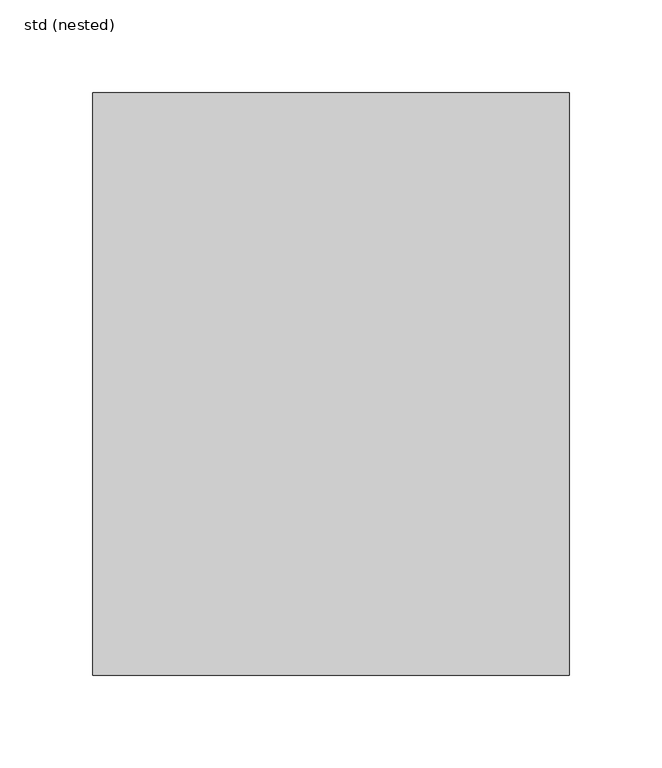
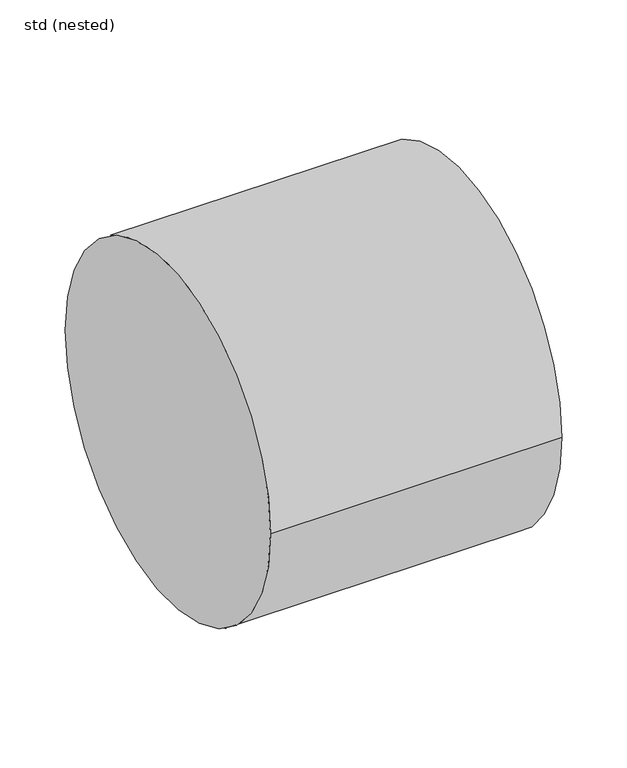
"""IFC4 building model written with IfcOpenShell, lengths in millimetres: pipe segment geometry, NLRS_52_PIF_UN_SN4 SN8 buis -SH_Dyka : std (nested)."""

from ifc_helpers import new_model, si_unit, point, frame, origin, origin_2d, place, context, project, spatial, circle_curve, trimmed, segment, composite_curve, outline, extrude, source, transform, mapped, element, save


def std_nested_c15e3241(model_context):
    return source(origin(), model_context, "Body", "SweptSolid", [
        extrude(outline(composite_curve([segment(trimmed(circle_curve(origin_2d(), 157.5), [point((-157.5, 0.0))], [point((157.5, 0.0))], False, "CARTESIAN"), True, "CONTINUOUS"), segment(trimmed(circle_curve(origin_2d(), 157.5), [point((157.5, 0.0))], [point((-157.5, 0.0))], False, "CARTESIAN"), True, "CONTINUOUS")], self_intersect=False)), frame((0.0, 0.0, 0.0), z_axis=(1.0, 0.0, 0.0), x_axis=(0.0, 1.0, 0.0)), (0.0, 0.0, 1.0), 257.7),
    ])


if __name__ == "__main__":
    model = new_model("IFC4")
    model_context = context("Model", 3, world=origin())
    ifc_project = project(units=[si_unit("LENGTHUNIT", "METRE", prefix="MILLI")], contexts=[model_context])
    site = spatial("IfcSite", under=ifc_project)
    building = spatial("IfcBuilding", under=site)
    placement = place(None, origin())
    std_nested_shape = std_nested_c15e3241(model_context)
    element("IfcPipeSegment", 1, ObjectType="NLRS_52_PIF_UN_SN4 SN8 buis -SH_Dyka : std (nested)", at=placement, inside=building, context=model_context, shape_type="MappedRepresentation", body=[
        mapped(std_nested_shape, transform((0.0, 0.0, 0.0), x_axis=(1.0, 0.0, 0.0), y_axis=(0.0, 1.0, 0.0), z_axis=(0.0, 0.0, 1.0))),
    ])
    save(model, "model.ifc")
